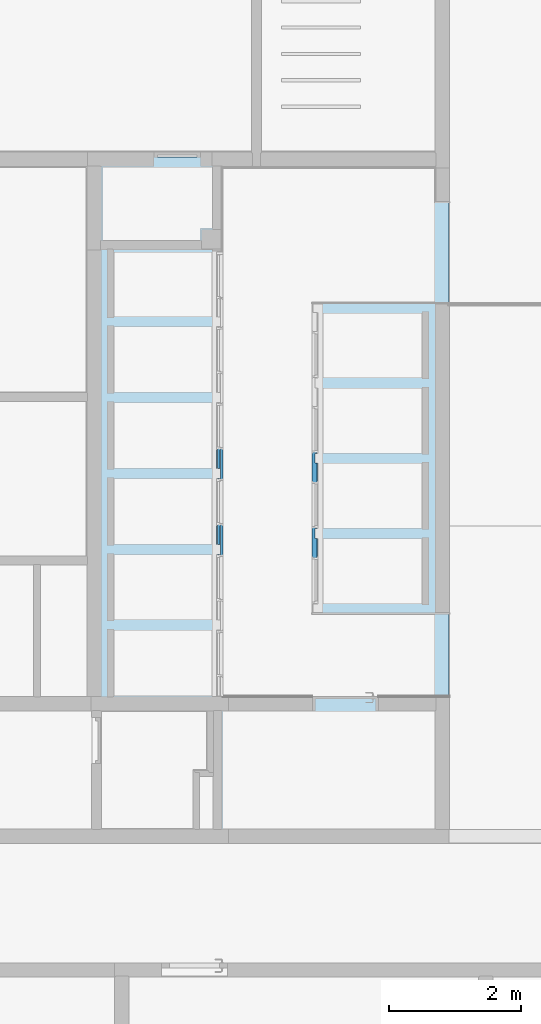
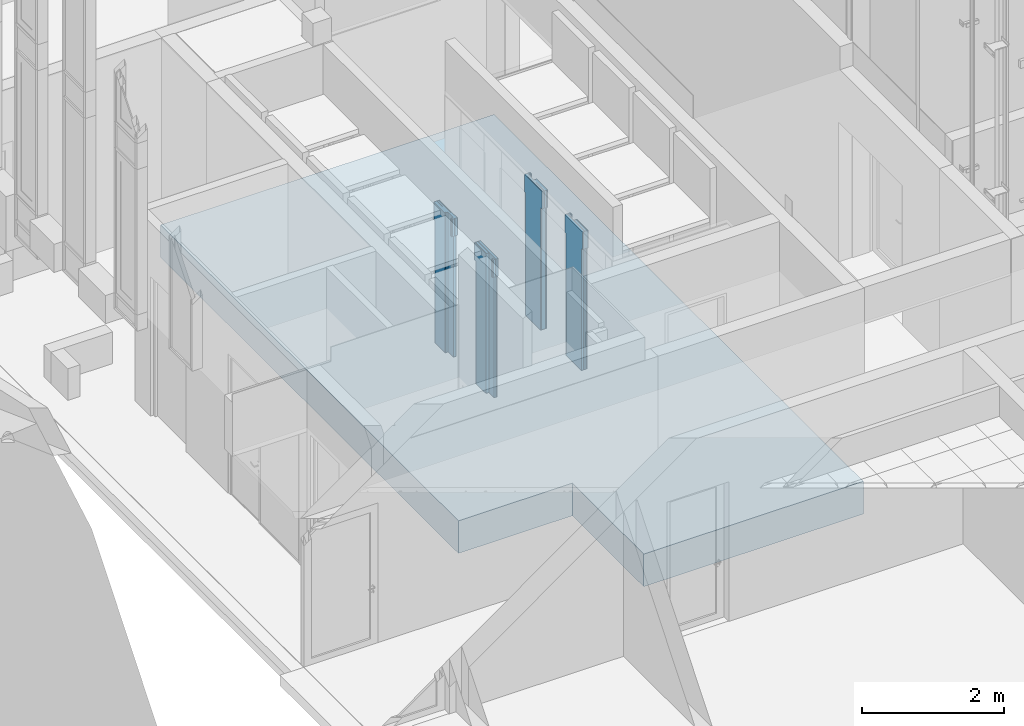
# One storey, part 95 of 246: 4 plates, 1 slab, 2 elements without a shape of their own.
"""IFC2X3 building model written with IfcOpenShell, lengths in millimetres."""

from ifc_helpers import new_model, entity, si_unit, converted_unit, derived_unit, money_unit, direction, frame, origin_with_axes, place, context, subcontext, project, spatial, faceted_brep, material, material_list, type_object, element, aggregate, save


model = new_model("IFC2X3")

# Units and contexts
model_context = context("Model", 3, precision=0.01, world=origin_with_axes(), true_north=direction((0.0, 1.0)))
body_context = subcontext(model_context, "Body", "Model", "MODEL_VIEW")
ifc_project = project(units=[si_unit("LENGTHUNIT", "METRE", prefix="MILLI"), si_unit("AREAUNIT", "SQUARE_METRE"), si_unit("VOLUMEUNIT", "CUBIC_METRE"), converted_unit("PLANEANGLEUNIT", "DEGREE", entity("IfcPlaneAngleMeasure", 0.0174532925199), si_unit("PLANEANGLEUNIT", "RADIAN"), dimensions=[0, 0, 0, 0, 0, 0, 0]), si_unit("SOLIDANGLEUNIT", "STERADIAN"), money_unit("EUR"), converted_unit("TIMEUNIT", "Year", entity("IfcTimeMeasure", 31556926.0), si_unit("TIMEUNIT", "SECOND"), dimensions=[0, 0, 1, 0, 0, 0, 0]), si_unit("MASSUNIT", "GRAM", prefix="KILO"), si_unit("THERMODYNAMICTEMPERATUREUNIT", "DEGREE_CELSIUS"), si_unit("LUMINOUSINTENSITYUNIT", "LUMEN"), si_unit("ENERGYUNIT", "JOULE", prefix="MEGA"), derived_unit("THERMALCONDUCTANCEUNIT", [(si_unit("POWERUNIT", "WATT"), 1), (si_unit("LENGTHUNIT", "METRE"), -1), (si_unit("THERMODYNAMICTEMPERATUREUNIT", "KELVIN"), -1)]), derived_unit("SPECIFICHEATCAPACITYUNIT", [(si_unit("ENERGYUNIT", "JOULE"), 1), (si_unit("MASSUNIT", "GRAM", prefix="KILO"), -1), (si_unit("THERMODYNAMICTEMPERATUREUNIT", "KELVIN"), -1)]), derived_unit("MASSDENSITYUNIT", [(si_unit("MASSUNIT", "GRAM", prefix="KILO"), 1), (si_unit("VOLUMEUNIT", "CUBIC_METRE"), -1)])], contexts=[model_context])

# Site, building, storey
site_placement = place(None, origin_with_axes())
site = spatial("IfcSite", under=ifc_project, at=site_placement, Name="L.Koidula tn 11b", CompositionType="ELEMENT")
building_placement = place(site_placement, origin_with_axes())
building = spatial("IfcBuilding", under=site, at=building_placement, Name="Rakvere Riigigümnaasium", CompositionType="ELEMENT")
storey_placement = place(building_placement, origin_with_axes())
storey = spatial("IfcBuildingStorey", under=building, at=storey_placement, Name="1.korrus 0,00", CompositionType="ELEMENT", Elevation=0.0)

# Curtain wall, plates
curtain_wall_type = type_object("IfcCurtainWallType", Name="Curtain Wall Type", PredefinedType="NOTDEFINED")
curtain_wall_1_placement = place(storey_placement, frame((41170.0073165, 24038.4555472, 1.56205997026e-05), z_axis=(0.0, 0.0, 1.0), x_axis=(1.0, 0.0, 0.0)))
curtain_wall_1 = element("IfcCurtainWall", 1, at=curtain_wall_1_placement, inside=storey, type_object=curtain_wall_type, Name="SUS-01")
ifc_material_1 = material(Name="Klaasvill")
ifc_material_2 = material(Name="MDF")
ifc_material_3 = material(Name="Kipsplaat")
ifc_material_list_1 = material_list([ifc_material_1, ifc_material_2, ifc_material_3])
plate_type_1 = type_object("IfcPlateType", Name="SA-Siseuksesüsteem-Paneel 500 x 300 x 0", PredefinedType="CURTAIN_PANEL")
plate_1_placement = place(curtain_wall_1_placement, frame((0.0, -3197.00003493, 1499.99994772), z_axis=(0.0, 0.0, 1.0), x_axis=(0.0, 1.0, 0.0)))
plate_1 = element("IfcPlate", 2, at=plate_1_placement, type_object=plate_type_1, material=ifc_material_list_1, Name="Panel-SA-Siseuks-018", ObjectType="CURTAIN_PANEL", context=body_context, shape_type="Brep", body=[
    faceted_brep([(-65.9524800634, 45.0, 900.000036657), (-66.0481556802, 45.0, 900.000036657), (-81.0481556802, 45.000028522, 900.000036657), (-201.04815568, 45.000028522, 900.000036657), (-216.04815568, 45.000028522, 900.000036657), (-216.04815568, 79.0, 900.000036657), (-249.999997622, 79.0, 900.000025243), (-249.999997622, 42.0, 900.000025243), (250.0, 42.0, 900.000025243), (250.0, 79.0, 900.000025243), (-65.9524800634, 79.0, 900.000036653), (-65.9524800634, 45.0, -1499.99996334), (-66.0481556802, 45.0, -1499.99996334), (-81.0481556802, 45.000028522, -1499.99996334), (-201.04815568, 45.000028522, -1499.99996334), (-215.999997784, 45.000028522, 600.000026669), (-216.04815568, 45.000028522, 600.000026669), (-215.999997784, 45.000028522, -1499.99996334), (-216.04815568, 79.0, 600.000026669), (-249.999997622, 79.0, 600.000026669), (-249.999997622, 42.0, 600.000026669), (216.000000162, 42.0, 600.000026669), (250.0, 42.0, 600.000026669), (-215.999997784, 42.0, 600.000026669), (-215.999997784, 42.0, -1499.99996334), (216.000000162, 42.0, -1499.99996334), (250.0, 79.0, 600.000026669), (-65.9524800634, 79.0, -1499.99996334), (216.000000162, 79.0, 600.000026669), (216.000000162, 79.0, -1499.99996334)], [[[0, 1, 2, 3, 4, 5, 6, 7, 8, 9, 10]], [[1, 0, 11, 12, 13, 2]], [[13, 14, 3, 2]], [[15, 16, 4, 3, 14, 17]], [[16, 18, 5, 4]], [[19, 6, 5, 18]], [[7, 6, 19, 20]], [[21, 22, 8, 7, 20, 23, 24, 25]], [[22, 26, 9, 8]], [[27, 10, 9, 26, 28, 29]], [[0, 10, 27, 11]], [[11, 27, 29, 25, 24, 17, 14, 13, 12]], [[19, 18, 16, 15, 23, 20]], [[24, 23, 15, 17]], [[21, 28, 26, 22]], [[25, 29, 28, 21]]]),
    faceted_brep([(-65.9524800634, 92.0, 900.000036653), (-65.9524800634, 84.0, 900.000036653), (250.0, 84.0, 900.000025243), (250.0, 92.0, 900.000025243), (-65.9524800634, 84.0, -1499.99996334), (-65.9524800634, 92.0, -1499.99996334), (216.000000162, 84.0, -1499.99996334), (216.000000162, 84.0, 600.000026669), (250.0, 84.0, 600.000026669), (250.0, 92.0, 600.000026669), (216.000000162, 92.0, 600.000026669), (216.000000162, 92.0, -1499.99996334)], [[[0, 1, 2, 3]], [[4, 1, 0, 5]], [[1, 4, 6, 7, 8, 2]], [[9, 3, 2, 8]], [[5, 0, 3, 9, 10, 11]], [[4, 5, 11, 6]], [[11, 10, 7, 6]], [[10, 9, 8, 7]]]),
    faceted_brep([(-249.999997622, 84.0, 600.000026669), (-216.04815568, 84.0, 600.000026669), (-216.04815568, 84.0, 900.000036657), (-249.999997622, 84.0, 900.000025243), (-249.999997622, 92.0, 600.000026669), (-216.04815568, 92.0, 600.000026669), (-216.04815568, 92.0, 900.000036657), (-249.999997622, 92.0, 900.000025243)], [[[0, 1, 2, 3]], [[4, 5, 1, 0]], [[5, 6, 2, 1]], [[3, 2, 6, 7]], [[7, 4, 0, 3]], [[7, 6, 5, 4]]]),
    faceted_brep([(-249.999997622, 0.0, 900.000025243), (250.0, 0.0, 900.000025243), (250.0, 10.0, 900.000025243), (-249.999997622, 10.0, 900.000025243), (-249.999997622, 0.0, 600.000026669), (-215.999997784, 0.0, 600.000026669), (-215.999997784, 0.0, -1499.99996334), (216.000000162, 0.0, -1499.99996334), (216.000000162, 0.0, 600.000026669), (250.0, 0.0, 600.000026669), (250.0, 10.0, 600.000026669), (216.000000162, 10.0, 600.000026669), (216.000000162, 10.0, -1499.99996334), (-215.999997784, 10.0, -1499.99996334), (-215.999997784, 10.0, 600.000026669), (-249.999997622, 10.0, 600.000026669)], [[[0, 1, 2, 3]], [[0, 4, 5, 6, 7, 8, 9, 1]], [[1, 9, 10, 2]], [[3, 2, 10, 11, 12, 13, 14, 15]], [[4, 0, 3, 15]], [[5, 4, 15, 14]], [[6, 5, 14, 13]], [[7, 6, 13, 12]], [[8, 7, 12, 11]], [[9, 8, 11, 10]]]),
    faceted_brep([(-249.999997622, 12.0, 900.000025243), (250.0, 12.0, 900.000025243), (250.0, 25.0, 900.000025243), (-249.999997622, 25.0, 900.000025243), (-249.999997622, 12.0, 600.000026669), (-215.999997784, 12.0, 600.000026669), (-215.999997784, 12.0, -1499.99996334), (216.000000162, 12.0, -1499.99996334), (216.000000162, 12.0, 600.000026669), (250.0, 12.0, 600.000026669), (250.0, 25.0, 600.000026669), (216.000000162, 25.0, 600.000026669), (216.000000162, 25.0, -1499.99996334), (-215.999997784, 25.0, -1499.99996334), (-215.999997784, 25.0, 600.000026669), (-249.999997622, 25.0, 600.000026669)], [[[0, 1, 2, 3]], [[0, 4, 5, 6, 7, 8, 9, 1]], [[1, 9, 10, 2]], [[3, 2, 10, 11, 12, 13, 14, 15]], [[4, 0, 3, 15]], [[5, 4, 15, 14]], [[6, 5, 14, 13]], [[7, 6, 13, 12]], [[8, 7, 12, 11]], [[9, 8, 11, 10]]]),
    faceted_brep([(-249.999997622, 25.0, 900.000025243), (250.0, 25.0, 900.000025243), (250.0, 38.0, 900.000025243), (-249.999997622, 38.0, 900.000025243), (-249.999997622, 25.0, 600.000026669), (-215.999997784, 25.0, 600.000026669), (-215.999997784, 25.0, -1499.99996334), (216.000000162, 25.0, -1499.99996334), (216.000000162, 25.0, 600.000026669), (250.0, 25.0, 600.000026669), (250.0, 38.0, 600.000026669), (216.000000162, 38.0, 600.000026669), (216.000000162, 38.0, -1499.99996334), (-215.999997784, 38.0, -1499.99996334), (-215.999997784, 38.0, 600.000026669), (-249.999997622, 38.0, 600.000026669)], [[[0, 1, 2, 3]], [[0, 4, 5, 6, 7, 8, 9, 1]], [[1, 9, 10, 2]], [[3, 2, 10, 11, 12, 13, 14, 15]], [[4, 0, 3, 15]], [[5, 4, 15, 14]], [[6, 5, 14, 13]], [[7, 6, 13, 12]], [[8, 7, 12, 11]], [[9, 8, 11, 10]]]),
])
plate_2_placement = place(curtain_wall_1_placement, frame((0.0, -4347.00003493, 1499.99994772), z_axis=(0.0, 0.0, 1.0), x_axis=(0.0, 1.0, 0.0)))
plate_2 = element("IfcPlate", 3, at=plate_2_placement, type_object=plate_type_1, material=ifc_material_list_1, Name="Panel-SA-Siseuks-019", ObjectType="CURTAIN_PANEL", context=body_context, shape_type="Brep", body=[
    faceted_brep([(-65.9689907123, 45.0, 900.000036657), (-66.0633249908, 45.0, 900.000036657), (-81.0633249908, 45.000028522, 900.000036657), (-201.063324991, 45.000028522, 900.000036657), (-216.180808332, 45.0, 900.000036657), (-216.180808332, 79.0, 900.000036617), (-249.999997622, 79.0, 900.000025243), (-249.999997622, 42.0, 900.000025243), (250.0, 42.0, 900.000025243), (250.0, 79.0, 900.000025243), (-65.9689907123, 79.0, 900.000036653), (-65.9689907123, 45.0, -1499.99996334), (-66.0633249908, 45.0, -1499.99996334), (-81.0633249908, 45.000028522, -1499.99996334), (-201.063324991, 45.000028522, -1499.99996334), (-216.180808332, 45.0, 600.000026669), (-215.999997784, 45.000028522, -1499.99996334), (-215.999997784, 45.000028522, 600.000026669), (-216.180808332, 79.0, 600.000026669), (-249.999997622, 79.0, 600.000026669), (-249.999997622, 42.0, 600.000026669), (216.000000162, 42.0, 600.000026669), (250.0, 42.0, 600.000026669), (-215.999997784, 42.0, 600.000026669), (-215.999997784, 42.0, -1499.99996334), (216.000000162, 42.0, -1499.99996334), (250.0, 79.0, 600.000026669), (-65.9689907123, 79.0, -1499.99996334), (216.000000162, 79.0, 600.000026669), (216.000000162, 79.0, -1499.99996334)], [[[0, 1, 2, 3, 4, 5, 6, 7, 8, 9, 10]], [[1, 0, 11, 12, 13, 2]], [[13, 14, 3, 2]], [[15, 4, 3, 14, 16, 17]], [[18, 5, 4, 15]], [[6, 5, 18, 19]], [[7, 6, 19, 20]], [[21, 22, 8, 7, 20, 23, 24, 25]], [[22, 26, 9, 8]], [[27, 10, 9, 26, 28, 29]], [[0, 10, 27, 11]], [[11, 27, 29, 25, 24, 16, 14, 13, 12]], [[24, 23, 17, 16]], [[18, 15, 17, 23, 20, 19]], [[21, 28, 26, 22]], [[25, 29, 28, 21]]]),
    faceted_brep([(-65.9689907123, 92.0, 900.000036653), (-65.9689907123, 84.0, 900.000036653), (250.0, 84.0, 900.000025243), (250.0, 92.0, 900.000025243), (-65.9689907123, 84.0, -1499.99996334), (-65.9689907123, 92.0, -1499.99996334), (216.000000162, 84.0, -1499.99996334), (216.000000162, 84.0, 600.000026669), (250.0, 84.0, 600.000026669), (250.0, 92.0, 600.000026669), (216.000000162, 92.0, 600.000026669), (216.000000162, 92.0, -1499.99996334)], [[[0, 1, 2, 3]], [[4, 1, 0, 5]], [[1, 4, 6, 7, 8, 2]], [[9, 3, 2, 8]], [[5, 0, 3, 9, 10, 11]], [[4, 5, 11, 6]], [[11, 10, 7, 6]], [[10, 9, 8, 7]]]),
    faceted_brep([(-216.180808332, 84.0, 600.000026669), (-216.180808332, 84.0, 900.000036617), (-249.999997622, 84.0, 900.000025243), (-249.999997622, 84.0, 600.000026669), (-216.180808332, 92.0, 900.000036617), (-216.180808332, 92.0, 600.000026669), (-249.999997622, 92.0, 900.000025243), (-249.999997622, 92.0, 600.000026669)], [[[0, 1, 2, 3]], [[4, 1, 0, 5]], [[1, 4, 6, 2]], [[6, 7, 3, 2]], [[5, 0, 3, 7]], [[4, 5, 7, 6]]]),
    faceted_brep([(-249.999997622, 0.0, 900.000025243), (250.0, 0.0, 900.000025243), (250.0, 10.0, 900.000025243), (-249.999997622, 10.0, 900.000025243), (-249.999997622, 0.0, 600.000026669), (-215.999997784, 0.0, 600.000026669), (-215.999997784, 0.0, -1499.99996334), (216.000000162, 0.0, -1499.99996334), (216.000000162, 0.0, 600.000026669), (250.0, 0.0, 600.000026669), (250.0, 10.0, 600.000026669), (216.000000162, 10.0, 600.000026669), (216.000000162, 10.0, -1499.99996334), (-215.999997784, 10.0, -1499.99996334), (-215.999997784, 10.0, 600.000026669), (-249.999997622, 10.0, 600.000026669)], [[[0, 1, 2, 3]], [[0, 4, 5, 6, 7, 8, 9, 1]], [[1, 9, 10, 2]], [[3, 2, 10, 11, 12, 13, 14, 15]], [[4, 0, 3, 15]], [[5, 4, 15, 14]], [[6, 5, 14, 13]], [[7, 6, 13, 12]], [[8, 7, 12, 11]], [[9, 8, 11, 10]]]),
    faceted_brep([(-249.999997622, 12.0, 900.000025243), (250.0, 12.0, 900.000025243), (250.0, 25.0, 900.000025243), (-249.999997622, 25.0, 900.000025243), (-249.999997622, 12.0, 600.000026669), (-215.999997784, 12.0, 600.000026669), (-215.999997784, 12.0, -1499.99996334), (216.000000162, 12.0, -1499.99996334), (216.000000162, 12.0, 600.000026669), (250.0, 12.0, 600.000026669), (250.0, 25.0, 600.000026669), (216.000000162, 25.0, 600.000026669), (216.000000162, 25.0, -1499.99996334), (-215.999997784, 25.0, -1499.99996334), (-215.999997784, 25.0, 600.000026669), (-249.999997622, 25.0, 600.000026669)], [[[0, 1, 2, 3]], [[0, 4, 5, 6, 7, 8, 9, 1]], [[1, 9, 10, 2]], [[3, 2, 10, 11, 12, 13, 14, 15]], [[4, 0, 3, 15]], [[5, 4, 15, 14]], [[6, 5, 14, 13]], [[7, 6, 13, 12]], [[8, 7, 12, 11]], [[9, 8, 11, 10]]]),
    faceted_brep([(-249.999997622, 25.0, 900.000025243), (250.0, 25.0, 900.000025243), (250.0, 38.0, 900.000025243), (-249.999997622, 38.0, 900.000025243), (-249.999997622, 25.0, 600.000026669), (-215.999997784, 25.0, 600.000026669), (-215.999997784, 25.0, -1499.99996334), (216.000000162, 25.0, -1499.99996334), (216.000000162, 25.0, 600.000026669), (250.0, 25.0, 600.000026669), (250.0, 38.0, 600.000026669), (216.000000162, 38.0, 600.000026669), (216.000000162, 38.0, -1499.99996334), (-215.999997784, 38.0, -1499.99996334), (-215.999997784, 38.0, 600.000026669), (-249.999997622, 38.0, 600.000026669)], [[[0, 1, 2, 3]], [[0, 4, 5, 6, 7, 8, 9, 1]], [[1, 9, 10, 2]], [[3, 2, 10, 11, 12, 13, 14, 15]], [[4, 0, 3, 15]], [[5, 4, 15, 14]], [[6, 5, 14, 13]], [[7, 6, 13, 12]], [[8, 7, 12, 11]], [[9, 8, 11, 10]]]),
])
aggregate(curtain_wall_1, [plate_1, plate_2])

curtain_wall_2_placement = place(storey_placement, frame((42519.9999626, 19079.4634323, 0.0), z_axis=(0.0, 0.0, 1.0), x_axis=(1.0, 0.0, 0.0)))
curtain_wall_2 = element("IfcCurtainWall", 4, at=curtain_wall_2_placement, inside=storey, type_object=curtain_wall_type, Name="SUS-02")
plate_type_2 = type_object("IfcPlateType", Name="SA-Siseuksesüsteem-Paneel 495 x 300 x 0", PredefinedType="CURTAIN_PANEL")
plate_3_placement = place(curtain_wall_2_placement, frame((0.0, 572.507919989, 1499.99999239), z_axis=(0.0, 0.0, 1.0), x_axis=(0.0, -1.0, 0.0)))
plate_3 = element("IfcPlate", 5, at=plate_3_placement, type_object=plate_type_2, material=ifc_material_list_1, Name="Panel-SA-Siseuks-017", ObjectType="CURTAIN_PANEL", context=body_context, shape_type="Brep", body=[
    faceted_brep([(213.500000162, 79.0, -1499.99999239), (-63.4841600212, 79.0, -1499.99999239), (-63.4841600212, 79.0, 900.000007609), (247.5, 79.0, 899.999996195), (247.5, 79.0, 599.999997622), (213.500000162, 79.0, 599.999997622), (-78.4841600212, 44.9999791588, -1499.99999239), (-63.4841600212, 44.9999791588, -1499.99999239), (213.500000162, 42.0, -1499.99999239), (-213.499997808, 42.0, -1499.99999239), (-213.499997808, 79.0, -1499.99999239), (-213.484160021, 79.0, -1499.99999239), (-213.484160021, 45.0, -1499.99999239), (-198.484160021, 44.9999791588, -1499.99999239), (-63.4841600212, 44.9999791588, 900.000007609), (-78.4841600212, 44.9999791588, 900.000007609), (-198.484160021, 44.9999791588, 900.000007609), (-213.484160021, 45.0, 899.999996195), (-213.484160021, 79.0, 899.999996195), (-247.499997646, 79.0, 899.999996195), (-247.499997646, 42.0, 899.999996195), (247.5, 42.0, 899.999996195), (247.5, 42.0, 599.999997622), (213.500000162, 42.0, 599.999997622), (-247.499997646, 42.0, 599.999997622), (-213.499997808, 42.0, 599.999997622), (-213.499997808, 79.0, 599.999997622), (-247.499997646, 79.0, 599.999997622)], [[[0, 1, 2, 3, 4, 5]], [[6, 7, 1, 0, 8, 9, 10, 11, 12, 13]], [[7, 14, 2, 1]], [[15, 16, 17, 18, 19, 20, 21, 3, 2, 14]], [[22, 4, 3, 21]], [[23, 5, 4, 22]], [[8, 0, 5, 23]], [[6, 15, 14, 7]], [[23, 22, 21, 20, 24, 25, 9, 8]], [[25, 26, 10, 9]], [[27, 19, 18, 11, 10, 26]], [[17, 12, 11, 18]], [[17, 16, 13, 12]], [[13, 16, 15, 6]], [[20, 19, 27, 24]], [[24, 27, 26, 25]]]),
    faceted_brep([(213.500000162, 92.0, -1499.99999239), (-63.4841600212, 92.0, -1499.99999239), (-63.4841600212, 92.0, 900.000007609), (247.5, 92.0, 899.999996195), (247.5, 92.0, 599.999997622), (213.500000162, 92.0, 599.999997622), (213.500000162, 84.0, -1499.99999239), (-63.4841600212, 84.0, -1499.99999239), (-63.4841600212, 84.0, 900.000007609), (247.5, 84.0, 899.999996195), (247.5, 84.0, 599.999997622), (213.500000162, 84.0, 599.999997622)], [[[0, 1, 2, 3, 4, 5]], [[6, 7, 1, 0]], [[7, 8, 2, 1]], [[3, 2, 8, 9]], [[10, 4, 3, 9]], [[11, 5, 4, 10]], [[6, 0, 5, 11]], [[9, 8, 7, 6, 11, 10]]]),
    faceted_brep([(-247.499997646, 84.0, 899.999996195), (-213.484160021, 84.0, 899.999996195), (-213.484160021, 92.0, 899.999996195), (-247.499997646, 92.0, 899.999996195), (-213.499997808, 84.0, -1499.99999239), (-213.484160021, 84.0, -1499.99999239), (-247.499997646, 84.0, 599.999997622), (-213.499997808, 84.0, 599.999997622), (-213.484160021, 92.0, -1499.99999239), (-213.499997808, 92.0, -1499.99999239), (-213.499997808, 92.0, 599.999997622), (-247.499997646, 92.0, 599.999997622)], [[[0, 1, 2, 3]], [[4, 5, 1, 0, 6, 7]], [[5, 8, 2, 1]], [[3, 2, 8, 9, 10, 11]], [[3, 11, 6, 0]], [[9, 8, 5, 4]], [[11, 10, 7, 6]], [[10, 9, 4, 7]]]),
    faceted_brep([(-247.499997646, 0.0, 899.999996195), (247.5, 0.0, 899.999996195), (247.5, 10.0, 899.999996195), (-247.499997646, 10.0, 899.999996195), (-247.499997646, 0.0, 599.999997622), (-213.499997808, 0.0, 599.999997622), (-213.499997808, 0.0, -1499.99999239), (213.500000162, 0.0, -1499.99999239), (213.500000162, 0.0, 599.999997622), (247.5, 0.0, 599.999997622), (247.5, 10.0, 599.999997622), (213.500000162, 10.0, 599.999997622), (213.500000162, 10.0, -1499.99999239), (-213.499997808, 10.0, -1499.99999239), (-213.499997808, 10.0, 599.999997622), (-247.499997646, 10.0, 599.999997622)], [[[0, 1, 2, 3]], [[0, 4, 5, 6, 7, 8, 9, 1]], [[1, 9, 10, 2]], [[3, 2, 10, 11, 12, 13, 14, 15]], [[4, 0, 3, 15]], [[5, 4, 15, 14]], [[6, 5, 14, 13]], [[7, 6, 13, 12]], [[8, 7, 12, 11]], [[9, 8, 11, 10]]]),
    faceted_brep([(-247.499997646, 12.0, 899.999996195), (247.5, 12.0, 899.999996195), (247.5, 25.0, 899.999996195), (-247.499997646, 25.0, 899.999996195), (-247.499997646, 12.0, 599.999997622), (-213.499997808, 12.0, 599.999997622), (-213.499997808, 12.0, -1499.99999239), (213.500000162, 12.0, -1499.99999239), (213.500000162, 12.0, 599.999997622), (247.5, 12.0, 599.999997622), (247.5, 25.0, 599.999997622), (213.500000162, 25.0, 599.999997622), (213.500000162, 25.0, -1499.99999239), (-213.499997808, 25.0, -1499.99999239), (-213.499997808, 25.0, 599.999997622), (-247.499997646, 25.0, 599.999997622)], [[[0, 1, 2, 3]], [[0, 4, 5, 6, 7, 8, 9, 1]], [[1, 9, 10, 2]], [[3, 2, 10, 11, 12, 13, 14, 15]], [[4, 0, 3, 15]], [[5, 4, 15, 14]], [[6, 5, 14, 13]], [[7, 6, 13, 12]], [[8, 7, 12, 11]], [[9, 8, 11, 10]]]),
    faceted_brep([(-247.499997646, 25.0, 899.999996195), (247.5, 25.0, 899.999996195), (247.5, 38.0, 899.999996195), (-247.499997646, 38.0, 899.999996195), (-247.499997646, 25.0, 599.999997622), (-213.499997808, 25.0, 599.999997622), (-213.499997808, 25.0, -1499.99999239), (213.500000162, 25.0, -1499.99999239), (213.500000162, 25.0, 599.999997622), (247.5, 25.0, 599.999997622), (247.5, 38.0, 599.999997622), (213.500000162, 38.0, 599.999997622), (213.500000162, 38.0, -1499.99999239), (-213.499997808, 38.0, -1499.99999239), (-213.499997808, 38.0, 599.999997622), (-247.499997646, 38.0, 599.999997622)], [[[0, 1, 2, 3]], [[0, 4, 5, 6, 7, 8, 9, 1]], [[1, 9, 10, 2]], [[3, 2, 10, 11, 12, 13, 14, 15]], [[4, 0, 3, 15]], [[5, 4, 15, 14]], [[6, 5, 14, 13]], [[7, 6, 13, 12]], [[8, 7, 12, 11]], [[9, 8, 11, 10]]]),
])
plate_type_3 = type_object("IfcPlateType", Name="SA-Siseuksesüsteem-Paneel 490 x 300 x 0", PredefinedType="CURTAIN_PANEL")
plate_4_placement = place(curtain_wall_2_placement, frame((0.0, 1715.00791999, 1499.99999239), z_axis=(0.0, 0.0, 1.0), x_axis=(0.0, -1.0, 0.0)))
plate_4 = element("IfcPlate", 6, at=plate_4_placement, type_object=plate_type_3, material=ifc_material_list_1, Name="Panel-SA-Siseuks-018", ObjectType="CURTAIN_PANEL", context=body_context, shape_type="Brep", body=[
    faceted_brep([(211.000000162, 79.0, -1499.99999239), (-60.9841600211, 79.0, -1499.99999239), (-60.9841600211, 79.0, 900.000007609), (245.0, 79.0, 899.999996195), (245.0, 79.0, 599.999997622), (211.000000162, 79.0, 599.999997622), (-75.9841600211, 44.9999791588, -1499.99999239), (-60.9841600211, 44.9999791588, -1499.99999239), (211.000000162, 42.0, -1499.99999239), (-210.999997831, 42.0, -1499.99999239), (-210.999997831, 79.0, -1499.99999239), (-210.984160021, 79.0, -1499.99999239), (-210.984160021, 45.0, -1499.99999239), (-195.984160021, 44.9999791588, -1499.99999239), (-60.9841600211, 44.9999791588, 900.000007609), (-75.9841600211, 44.9999791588, 900.000007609), (-195.984160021, 44.9999791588, 900.000007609), (-210.984160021, 45.0, 899.999996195), (-210.984160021, 79.0, 899.999996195), (-244.99999767, 79.0, 899.999996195), (-244.99999767, 42.0, 899.999996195), (245.0, 42.0, 899.999996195), (245.0, 42.0, 599.999997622), (211.000000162, 42.0, 599.999997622), (-244.99999767, 42.0, 599.999997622), (-210.999997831, 42.0, 599.999997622), (-210.999997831, 79.0, 599.999997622), (-244.99999767, 79.0, 599.999997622)], [[[0, 1, 2, 3, 4, 5]], [[6, 7, 1, 0, 8, 9, 10, 11, 12, 13]], [[7, 14, 2, 1]], [[15, 16, 17, 18, 19, 20, 21, 3, 2, 14]], [[22, 4, 3, 21]], [[23, 5, 4, 22]], [[8, 0, 5, 23]], [[6, 15, 14, 7]], [[23, 22, 21, 20, 24, 25, 9, 8]], [[25, 26, 10, 9]], [[27, 19, 18, 11, 10, 26]], [[17, 12, 11, 18]], [[17, 16, 13, 12]], [[13, 16, 15, 6]], [[20, 19, 27, 24]], [[24, 27, 26, 25]]]),
    faceted_brep([(211.000000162, 92.0, -1499.99999239), (-60.9841600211, 92.0, -1499.99999239), (-60.9841600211, 92.0, 900.000007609), (245.0, 92.0, 899.999996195), (245.0, 92.0, 599.999997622), (211.000000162, 92.0, 599.999997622), (211.000000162, 84.0, -1499.99999239), (-60.9841600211, 84.0, -1499.99999239), (-60.9841600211, 84.0, 900.000007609), (245.0, 84.0, 899.999996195), (245.0, 84.0, 599.999997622), (211.000000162, 84.0, 599.999997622)], [[[0, 1, 2, 3, 4, 5]], [[6, 7, 1, 0]], [[7, 8, 2, 1]], [[3, 2, 8, 9]], [[10, 4, 3, 9]], [[11, 5, 4, 10]], [[6, 0, 5, 11]], [[9, 8, 7, 6, 11, 10]]]),
    faceted_brep([(-244.99999767, 84.0, 899.999996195), (-210.984160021, 84.0, 899.999996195), (-210.984160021, 92.0, 899.999996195), (-244.99999767, 92.0, 899.999996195), (-210.999997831, 84.0, -1499.99999239), (-210.984160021, 84.0, -1499.99999239), (-244.99999767, 84.0, 599.999997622), (-210.999997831, 84.0, 599.999997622), (-210.984160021, 92.0, -1499.99999239), (-210.999997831, 92.0, -1499.99999239), (-210.999997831, 92.0, 599.999997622), (-244.99999767, 92.0, 599.999997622)], [[[0, 1, 2, 3]], [[4, 5, 1, 0, 6, 7]], [[5, 8, 2, 1]], [[3, 2, 8, 9, 10, 11]], [[3, 11, 6, 0]], [[9, 8, 5, 4]], [[11, 10, 7, 6]], [[10, 9, 4, 7]]]),
    faceted_brep([(-244.99999767, 0.0, 899.999996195), (245.0, 0.0, 899.999996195), (245.0, 10.0, 899.999996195), (-244.99999767, 10.0, 899.999996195), (-244.99999767, 0.0, 599.999997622), (-210.999997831, 0.0, 599.999997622), (-210.999997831, 0.0, -1499.99999239), (211.000000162, 0.0, -1499.99999239), (211.000000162, 0.0, 599.999997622), (245.0, 0.0, 599.999997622), (245.0, 10.0, 599.999997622), (211.000000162, 10.0, 599.999997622), (211.000000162, 10.0, -1499.99999239), (-210.999997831, 10.0, -1499.99999239), (-210.999997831, 10.0, 599.999997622), (-244.99999767, 10.0, 599.999997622)], [[[0, 1, 2, 3]], [[0, 4, 5, 6, 7, 8, 9, 1]], [[1, 9, 10, 2]], [[3, 2, 10, 11, 12, 13, 14, 15]], [[4, 0, 3, 15]], [[5, 4, 15, 14]], [[6, 5, 14, 13]], [[7, 6, 13, 12]], [[8, 7, 12, 11]], [[9, 8, 11, 10]]]),
    faceted_brep([(-244.99999767, 12.0, 899.999996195), (245.0, 12.0, 899.999996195), (245.0, 25.0, 899.999996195), (-244.99999767, 25.0, 899.999996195), (-244.99999767, 12.0, 599.999997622), (-210.999997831, 12.0, 599.999997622), (-210.999997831, 12.0, -1499.99999239), (211.000000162, 12.0, -1499.99999239), (211.000000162, 12.0, 599.999997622), (245.0, 12.0, 599.999997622), (245.0, 25.0, 599.999997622), (211.000000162, 25.0, 599.999997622), (211.000000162, 25.0, -1499.99999239), (-210.999997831, 25.0, -1499.99999239), (-210.999997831, 25.0, 599.999997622), (-244.99999767, 25.0, 599.999997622)], [[[0, 1, 2, 3]], [[0, 4, 5, 6, 7, 8, 9, 1]], [[1, 9, 10, 2]], [[3, 2, 10, 11, 12, 13, 14, 15]], [[4, 0, 3, 15]], [[5, 4, 15, 14]], [[6, 5, 14, 13]], [[7, 6, 13, 12]], [[8, 7, 12, 11]], [[9, 8, 11, 10]]]),
    faceted_brep([(-244.99999767, 25.0, 899.999996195), (245.0, 25.0, 899.999996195), (245.0, 38.0, 899.999996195), (-244.99999767, 38.0, 899.999996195), (-244.99999767, 25.0, 599.999997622), (-210.999997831, 25.0, 599.999997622), (-210.999997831, 25.0, -1499.99999239), (211.000000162, 25.0, -1499.99999239), (211.000000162, 25.0, 599.999997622), (245.0, 25.0, 599.999997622), (245.0, 38.0, 599.999997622), (211.000000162, 38.0, 599.999997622), (211.000000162, 38.0, -1499.99999239), (-210.999997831, 38.0, -1499.99999239), (-210.999997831, 38.0, 599.999997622), (-244.99999767, 38.0, 599.999997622)], [[[0, 1, 2, 3]], [[0, 4, 5, 6, 7, 8, 9, 1]], [[1, 9, 10, 2]], [[3, 2, 10, 11, 12, 13, 14, 15]], [[4, 0, 3, 15]], [[5, 4, 15, 14]], [[6, 5, 14, 13]], [[7, 6, 13, 12]], [[8, 7, 12, 11]], [[9, 8, 11, 10]]]),
])
aggregate(curtain_wall_2, [plate_3, plate_4])

# Slab
ifc_material_4 = material(Name="Keraamiline plaat")
ifc_material_5 = material(Name="Betoon element / plaat")
ifc_material_6 = material(Name="Soojustus - EPS")
ifc_material_7 = material(Name="Killustik")
ifc_material_list_2 = material_list([ifc_material_4, ifc_material_5, ifc_material_6, ifc_material_6, ifc_material_7])
slab_type = type_object("IfcSlabType", Name="PP-02 560", PredefinedType="NOTDEFINED")
slab_placement = place(storey_placement, frame((41030.003974, 15100.4844671, 0.0), z_axis=(0.0, 0.0, 1.0), x_axis=(1.0, 0.0, 0.0)))
element("IfcSlab", 7, at=slab_placement, inside=storey, type_object=slab_type, material=ifc_material_list_2, Name="Põrand pinnasel", PredefinedType="NOTDEFINED", context=body_context, shape_type="Brep", body=[
    faceted_brep([(0.0, 0.0, -10.0), (3569.99601714, -0.00593686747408, -10.0), (3569.99601714, -0.00593686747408, 0.0), (0.0, 0.0, 0.0), (0.00334255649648, 2009.96795203, -10.0), (-1849.9933434, 2009.97102855, -10.0), (-1849.99668596, 10394.9672092, -10.0), (3569.99601714, 10394.9672092, -10.0), (3569.99601714, 10394.9672092, 0.0), (0.00334255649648, 2009.96795203, 0.0), (-1849.99668596, 10394.9672092, 0.0), (-1849.9933434, 2009.97102855, 0.0)], [[[0, 1, 2, 3]], [[1, 0, 4, 5, 6, 7]], [[1, 7, 8, 2]], [[9, 3, 2, 8, 10, 11]], [[4, 0, 3, 9]], [[5, 4, 9, 11]], [[6, 5, 11, 10]], [[7, 6, 10, 8]]]),
    faceted_brep([(3569.99601714, -0.00593686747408, -160.0), (3569.99601714, -0.00593686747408, -10.0), (0.0, 0.0, -10.0), (0.0, 0.0, -160.0), (3569.99601714, 10394.9672092, -160.0), (3569.99601714, 10394.9672092, -10.0), (-1849.99668596, 10394.9672092, -10.0), (-1849.9933434, 2009.97102855, -10.0), (0.00334255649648, 2009.96795203, -10.0), (0.00334255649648, 2009.96795203, -160.0), (-1849.9933434, 2009.97102855, -160.0), (-1849.99668596, 10394.9672092, -160.0)], [[[0, 1, 2, 3]], [[4, 5, 1, 0]], [[2, 1, 5, 6, 7, 8]], [[3, 2, 8, 9]], [[3, 9, 10, 11, 4, 0]], [[11, 6, 5, 4]], [[10, 7, 6, 11]], [[9, 8, 7, 10]]]),
    faceted_brep([(3569.99601714, -0.00593686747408, -260.0), (3569.99601714, -0.00593686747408, -160.0), (0.0, 0.0, -160.0), (0.0, 0.0, -260.0), (3569.99601714, 10394.9672092, -260.0), (3569.99601714, 10394.9672092, -160.0), (-1849.99668596, 10394.9672092, -160.0), (-1849.9933434, 2009.97102855, -160.0), (0.00334255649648, 2009.96795203, -160.0), (0.00334255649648, 2009.96795203, -260.0), (-1849.9933434, 2009.97102855, -260.0), (-1849.99668596, 10394.9672092, -260.0)], [[[0, 1, 2, 3]], [[4, 5, 1, 0]], [[2, 1, 5, 6, 7, 8]], [[3, 2, 8, 9]], [[3, 9, 10, 11, 4, 0]], [[11, 6, 5, 4]], [[10, 7, 6, 11]], [[9, 8, 7, 10]]]),
    faceted_brep([(3569.99601714, -0.00593686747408, -360.0), (3569.99601714, -0.00593686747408, -260.0), (0.0, 0.0, -260.0), (0.0, 0.0, -360.0), (3569.99601714, 10394.9672092, -360.0), (3569.99601714, 10394.9672092, -260.0), (-1849.99668596, 10394.9672092, -260.0), (-1849.9933434, 2009.97102855, -260.0), (0.00334255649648, 2009.96795203, -260.0), (0.00334255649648, 2009.96795203, -360.0), (-1849.9933434, 2009.97102855, -360.0), (-1849.99668596, 10394.9672092, -360.0)], [[[0, 1, 2, 3]], [[4, 5, 1, 0]], [[2, 1, 5, 6, 7, 8]], [[3, 2, 8, 9]], [[3, 9, 10, 11, 4, 0]], [[11, 6, 5, 4]], [[10, 7, 6, 11]], [[9, 8, 7, 10]]]),
    faceted_brep([(0.0, 0.0, -560.0), (3569.99601714, -0.00593686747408, -560.0), (3569.99601714, -0.00593686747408, -360.0), (0.0, 0.0, -360.0), (0.00334255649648, 2009.96795203, -560.0), (-1849.9933434, 2009.97102855, -560.0), (-1849.99668596, 10394.9672092, -560.0), (3569.99601714, 10394.9672092, -560.0), (3569.99601714, 10394.9672092, -360.0), (-1849.99668596, 10394.9672092, -360.0), (-1849.9933434, 2009.97102855, -360.0), (0.00334255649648, 2009.96795203, -360.0)], [[[0, 1, 2, 3]], [[0, 4, 5, 6, 7, 1]], [[1, 7, 8, 2]], [[3, 2, 8, 9, 10, 11]], [[4, 0, 3, 11]], [[5, 4, 11, 10]], [[6, 5, 10, 9]], [[7, 6, 9, 8]]]),
])

save(model, "model.ifc")
